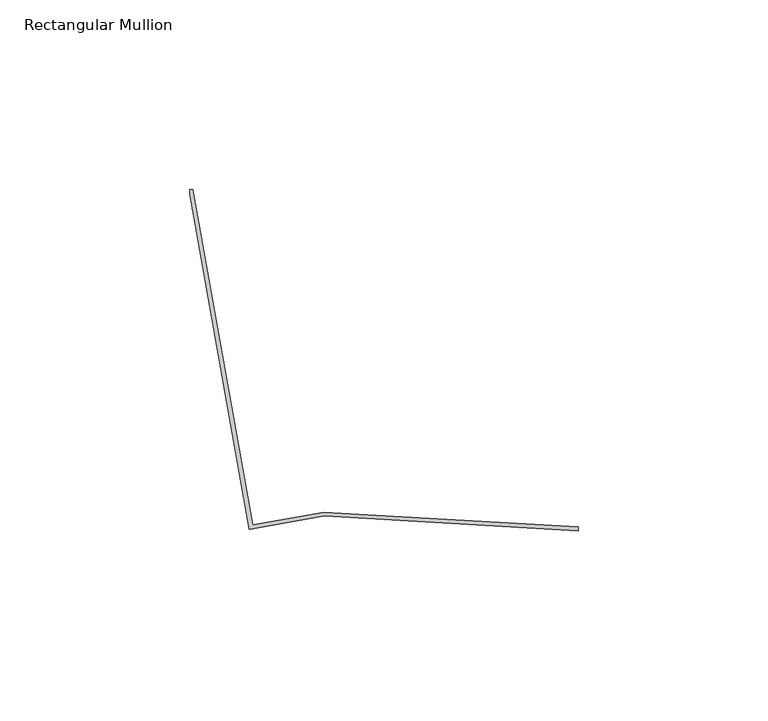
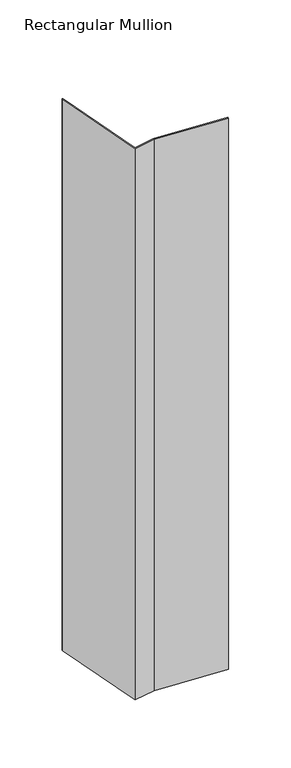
"""IFC4 building model written with IfcOpenShell, lengths in millimetres: member geometry, Rectangular Mullion : CD_NINELINE_Box Start."""

from ifc_helpers import new_model, si_unit, frame, origin, place, context, project, spatial, polyline, outline, extrude, source, transform, mapped, element, save


def rectangular_mullion_dd187791(model_context):
    return source(origin(), model_context, "Body", "SweptSolid", [
        extrude(outline(polyline([(-102.3753074, -0.9999629), (-102.3753074, 3.78e-05), (-101.5373726, 3.78e-05), (-85.8253425, -88.4000947), (-67.0220447, -85.0580411), (0.0, -88.9992721), (-0.0587036, -89.9975475), (-66.9630913, -86.0632353), (-86.6349168, -89.559659), (-102.3753074, -0.9999629)])), frame((0.0, 0.0, -540.0), z_axis=(0.0, 0.0, 1.0), x_axis=(1.0, 0.0, 0.0)), (0.0, 0.0, 1.0), 540.0),
    ])


if __name__ == "__main__":
    model = new_model("IFC4")
    model_context = context("Model", 3, world=origin())
    ifc_project = project(units=[si_unit("LENGTHUNIT", "METRE", prefix="MILLI")], contexts=[model_context])
    site = spatial("IfcSite", under=ifc_project)
    building = spatial("IfcBuilding", under=site)
    placement = place(None, origin())
    rectangular_mullion_shape = rectangular_mullion_dd187791(model_context)
    element("IfcMember", 1, ObjectType="Rectangular Mullion : CD_NINELINE_Box Start", at=placement, inside=building, context=model_context, shape_type="MappedRepresentation", body=[
        mapped(rectangular_mullion_shape, transform((0.0, 0.0, 0.0), x_axis=(1.0, 0.0, 0.0), y_axis=(0.0, 1.0, 0.0), z_axis=(0.0, 0.0, 1.0))),
    ])
    save(model, "model.ifc")
